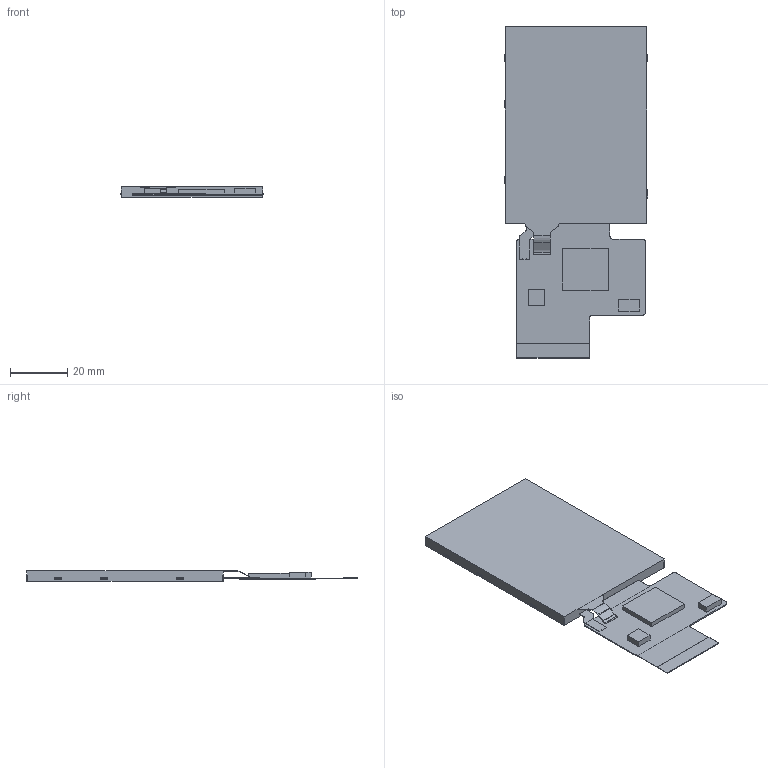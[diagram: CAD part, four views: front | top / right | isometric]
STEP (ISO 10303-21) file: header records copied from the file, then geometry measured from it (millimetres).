
FILE_DESCRIPTION((''),'2;1');
FILE_NAME('3D-DMG24320F028_01WTR-211123','2021-11-23T',('Administrator'),(''),'PRO/ENGINEER BY PARAMETRIC TECHNOLOGY CORPORATION, 2008380','PRO/ENGINEER BY PARAMETRIC TECHNOLOGY CORPORATION, 2008380','');
FILE_SCHEMA(('CONFIG_CONTROL_DESIGN'));
Length unit declared in the file: millimetre
Products named in the file (1): 3D-DMG24320F028_01WTR-211123
Bounding box: 50 x 115.95 x 3.75 mm (x, y, z)
Volume: 13794.5 mm3; surface area: 11557.9 mm2
Topology: 1 solids, 1 shells, 127 faces, 1505 edges, 1434 vertices
Faces by surface type: plane 99, cylinder 28
Entity records: 11242 total; most frequent: CARTESIAN_POINT 1889, DIRECTION 1819, VECTOR 1435, LINE 1435, TRIMMED_CURVE 1162, COMPOSITE_CURVE_SEGMENT 1116, ORIENTED_EDGE 686, EDGE_CURVE 343
